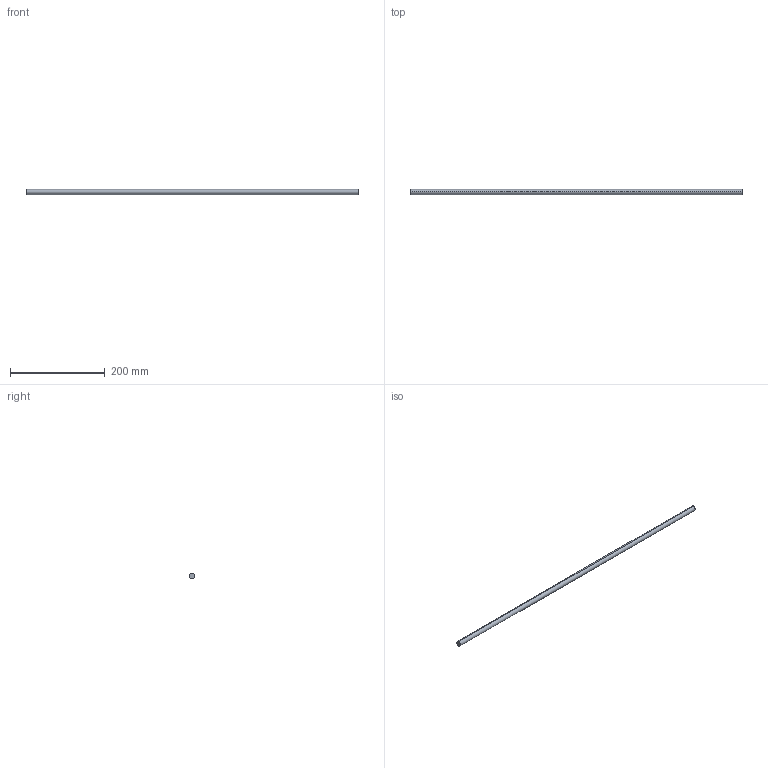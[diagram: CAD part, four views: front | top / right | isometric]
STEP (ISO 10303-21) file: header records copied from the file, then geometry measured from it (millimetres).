
FILE_DESCRIPTION (( 'STEP AP214' ), '1' );
FILE_NAME ('Querreling_2S-Rel_7102_KAB-800.step', '2010-09-22T15:05:57', ( 'grass' ), ( '' ), 'SwSTEP 2.0', 'SolidWorks 2010', '' );
FILE_SCHEMA (( 'AUTOMOTIVE_DESIGN' ));
Length unit declared in the file: millimetre
Products named in the file (1): Querreling_2S-Rel_7102_KAB-800
Bounding box: 699 x 11 x 11 mm (x, y, z)
Volume: 66428.2 mm3; surface area: 24345.8 mm2
Topology: 1 solids, 1 shells, 4 faces, 6 edges, 4 vertices
Faces by surface type: cylinder 2, plane 2
Entity records: 128 total; most frequent: DIRECTION 20, CARTESIAN_POINT 15, ORIENTED_EDGE 12, AXIS2_PLACEMENT_3D 9, EDGE_CURVE 6, VERTEX_POINT 4, ADVANCED_FACE 4, EDGE_LOOP 4
